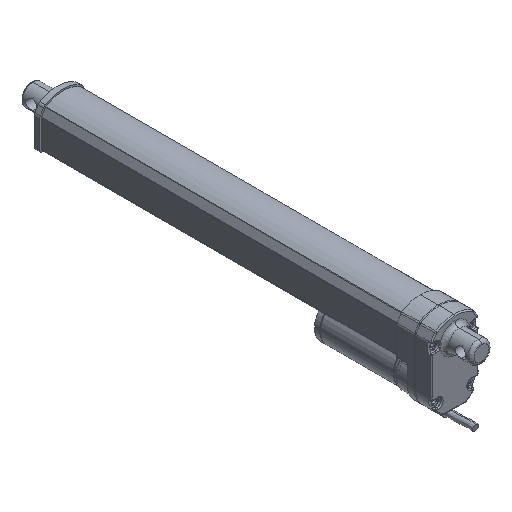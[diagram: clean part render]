
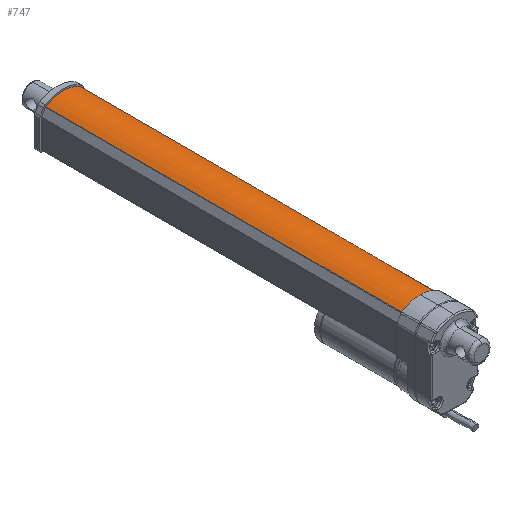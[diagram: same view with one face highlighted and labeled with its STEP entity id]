
A CAD part, isometric view. The second image highlights one B-rep face of the part: STEP entity #747.
In plain terms, the highlighted cylindrical face has radius 30 mm (diameter 60 mm), a partial arc.
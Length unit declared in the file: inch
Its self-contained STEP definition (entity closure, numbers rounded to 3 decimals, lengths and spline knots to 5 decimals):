
#747=ADVANCED_FACE('NONE',(#1858),#1859,.T.);
#1858=FACE_OUTER_BOUND('',#3525,.T.);
#1859=CYLINDRICAL_SURFACE('',#3526,1.1811);
#3525=EDGE_LOOP('',(#6441,#6442,#6443,#6444));
#3526=AXIS2_PLACEMENT_3D('',#6445,#6446,#6447);
#6441=ORIENTED_EDGE('',*,*,#10512,.T.);
#6442=ORIENTED_EDGE('',*,*,#10513,.T.);
#6443=ORIENTED_EDGE('',*,*,#10514,.T.);
#6444=ORIENTED_EDGE('',*,*,#10430,.T.);
#6445=CARTESIAN_POINT('',(0.,14.11417,0.25591));
#6446=DIRECTION('',(0.,-1.0,0.));
#6447=DIRECTION('',(-1.0,0.,0.));
#10430=EDGE_CURVE('NONE',#12490,#12488,#12491,.T.);
#10512=EDGE_CURVE('NONE',#12488,#12618,#12619,.T.);
#10513=EDGE_CURVE('NONE',#12618,#12620,#12621,.T.);
#10514=EDGE_CURVE('NONE',#12620,#12490,#12622,.T.);
#12488=VERTEX_POINT('NONE',#15360);
#12490=VERTEX_POINT('NONE',#15362);
#12491=LINE('',#15363,#15364);
#12618=VERTEX_POINT('NONE',#15546);
#12619=CIRCLE('',#15547,1.1811);
#12620=VERTEX_POINT('NONE',#15548);
#12621=LINE('',#15549,#15550);
#12622=CIRCLE('',#15551,1.1811);
#15360=CARTESIAN_POINT('',(-0.64271,0.33465,1.24683));
#15362=CARTESIAN_POINT('',(-0.64271,14.11417,1.24683));
#15363=CARTESIAN_POINT('',(-0.64271,14.11417,1.24683));
#15364=VECTOR('',#19453,39.37008);
#15546=CARTESIAN_POINT('',(0.64271,0.33465,1.24683));
#15547=AXIS2_PLACEMENT_3D('',#19555,#19556,#19557);
#15548=CARTESIAN_POINT('',(0.64271,14.11417,1.24683));
#15549=CARTESIAN_POINT('',(0.64271,14.11417,1.24683));
#15550=VECTOR('',#19558,39.37008);
#15551=AXIS2_PLACEMENT_3D('',#19559,#19560,#19561);
#19453=DIRECTION('',(0.,-1.0,0.));
#19555=CARTESIAN_POINT('',(0.,0.33465,0.25591));
#19556=DIRECTION('',(0.,1.0,0.));
#19557=DIRECTION('',(-1.0,0.,0.));
#19558=DIRECTION('',(0.,1.0,0.));
#19559=CARTESIAN_POINT('',(0.,14.11417,0.25591));
#19560=DIRECTION('',(0.,-1.0,0.));
#19561=DIRECTION('',(-1.0,0.,0.));
